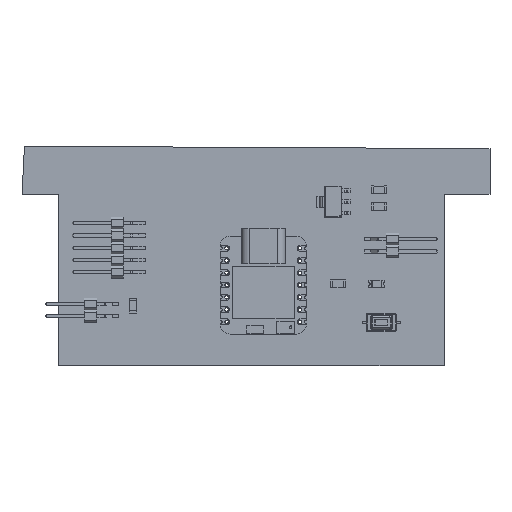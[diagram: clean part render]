
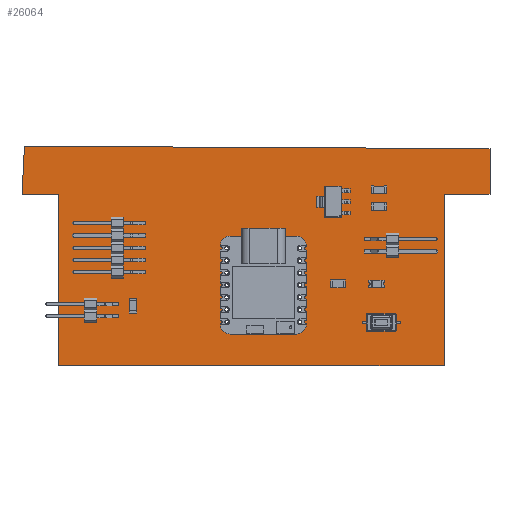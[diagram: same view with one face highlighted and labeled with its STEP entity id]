
A CAD part, top view. The second image highlights one B-rep face of the part: STEP entity #26064.
In plain terms, the highlighted planar face has unit normal (0, 0, 1).
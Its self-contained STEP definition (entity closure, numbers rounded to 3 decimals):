
#25766 = VERTEX_POINT('',#25767);
#25767 = CARTESIAN_POINT('',(189.5,-70.5,1.51));
#25773 = EDGE_CURVE('',#25766,#25774,#25776,.T.);
#25774 = VERTEX_POINT('',#25775);
#25775 = CARTESIAN_POINT('',(189.5,-80.,1.51));
#25776 = LINE('',#25777,#25778);
#25777 = CARTESIAN_POINT('',(189.5,-70.5,1.51));
#25778 = VECTOR('',#25779,1.);
#25779 = DIRECTION('',(0.,-1.,0.));
#25806 = VERTEX_POINT('',#25807);
#25807 = CARTESIAN_POINT('',(93.,-70.,1.51));
#25813 = EDGE_CURVE('',#25806,#25766,#25814,.T.);
#25814 = LINE('',#25815,#25816);
#25815 = CARTESIAN_POINT('',(93.,-70.,1.51));
#25816 = VECTOR('',#25817,1.);
#25817 = DIRECTION('',(1.,-0.005,0.));
#25835 = EDGE_CURVE('',#25774,#25836,#25838,.T.);
#25836 = VERTEX_POINT('',#25837);
#25837 = CARTESIAN_POINT('',(180.,-80.,1.51));
#25838 = LINE('',#25839,#25840);
#25839 = CARTESIAN_POINT('',(189.5,-80.,1.51));
#25840 = VECTOR('',#25841,1.);
#25841 = DIRECTION('',(-1.,0.,0.));
#26064 = ADVANCED_FACE('',(#26065,#26108,#26119,#26130,#26141,#26152,
    #26163,#26174,#26185,#26196,#26207,#26218,#26229,#26240,#26251),
  #26262,.T.);
#26065 = FACE_BOUND('',#26066,.T.);
#26066 = EDGE_LOOP('',(#26067,#26068,#26069,#26077,#26085,#26093,#26101,
    #26107));
#26067 = ORIENTED_EDGE('',*,*,#25773,.F.);
#26068 = ORIENTED_EDGE('',*,*,#25813,.F.);
#26069 = ORIENTED_EDGE('',*,*,#26070,.F.);
#26070 = EDGE_CURVE('',#26071,#25806,#26073,.T.);
#26071 = VERTEX_POINT('',#26072);
#26072 = CARTESIAN_POINT('',(92.5,-80.,1.51));
#26073 = LINE('',#26074,#26075);
#26074 = CARTESIAN_POINT('',(92.5,-80.,1.51));
#26075 = VECTOR('',#26076,1.);
#26076 = DIRECTION('',(0.05,0.999,0.));
#26077 = ORIENTED_EDGE('',*,*,#26078,.F.);
#26078 = EDGE_CURVE('',#26079,#26071,#26081,.T.);
#26079 = VERTEX_POINT('',#26080);
#26080 = CARTESIAN_POINT('',(100.,-80.,1.51));
#26081 = LINE('',#26082,#26083);
#26082 = CARTESIAN_POINT('',(100.,-80.,1.51));
#26083 = VECTOR('',#26084,1.);
#26084 = DIRECTION('',(-1.,0.,0.));
#26085 = ORIENTED_EDGE('',*,*,#26086,.F.);
#26086 = EDGE_CURVE('',#26087,#26079,#26089,.T.);
#26087 = VERTEX_POINT('',#26088);
#26088 = CARTESIAN_POINT('',(100.,-115.5,1.51));
#26089 = LINE('',#26090,#26091);
#26090 = CARTESIAN_POINT('',(100.,-115.5,1.51));
#26091 = VECTOR('',#26092,1.);
#26092 = DIRECTION('',(0.,1.,0.));
#26093 = ORIENTED_EDGE('',*,*,#26094,.F.);
#26094 = EDGE_CURVE('',#26095,#26087,#26097,.T.);
#26095 = VERTEX_POINT('',#26096);
#26096 = CARTESIAN_POINT('',(180.,-115.5,1.51));
#26097 = LINE('',#26098,#26099);
#26098 = CARTESIAN_POINT('',(180.,-115.5,1.51));
#26099 = VECTOR('',#26100,1.);
#26100 = DIRECTION('',(-1.,0.,0.));
#26101 = ORIENTED_EDGE('',*,*,#26102,.F.);
#26102 = EDGE_CURVE('',#25836,#26095,#26103,.T.);
#26103 = LINE('',#26104,#26105);
#26104 = CARTESIAN_POINT('',(180.,-80.,1.51));
#26105 = VECTOR('',#26106,1.);
#26106 = DIRECTION('',(0.,-1.,0.));
#26107 = ORIENTED_EDGE('',*,*,#25835,.F.);
#26108 = FACE_BOUND('',#26109,.T.);
#26109 = EDGE_LOOP('',(#26110));
#26110 = ORIENTED_EDGE('',*,*,#26111,.T.);
#26111 = EDGE_CURVE('',#26112,#26112,#26114,.T.);
#26112 = VERTEX_POINT('',#26113);
#26113 = CARTESIAN_POINT('',(134.9,-106.8,1.51));
#26114 = CIRCLE('',#26115,0.4);
#26115 = AXIS2_PLACEMENT_3D('',#26116,#26117,#26118);
#26116 = CARTESIAN_POINT('',(134.9,-106.4,1.51));
#26117 = DIRECTION('',(-0.,0.,-1.));
#26118 = DIRECTION('',(-0.,-1.,0.));
#26119 = FACE_BOUND('',#26120,.T.);
#26120 = EDGE_LOOP('',(#26121));
#26121 = ORIENTED_EDGE('',*,*,#26122,.T.);
#26122 = EDGE_CURVE('',#26123,#26123,#26125,.T.);
#26123 = VERTEX_POINT('',#26124);
#26124 = CARTESIAN_POINT('',(134.9,-104.26,1.51));
#26125 = CIRCLE('',#26126,0.4);
#26126 = AXIS2_PLACEMENT_3D('',#26127,#26128,#26129);
#26127 = CARTESIAN_POINT('',(134.9,-103.86,1.51));
#26128 = DIRECTION('',(-0.,0.,-1.));
#26129 = DIRECTION('',(-0.,-1.,0.));
#26130 = FACE_BOUND('',#26131,.T.);
#26131 = EDGE_LOOP('',(#26132));
#26132 = ORIENTED_EDGE('',*,*,#26133,.T.);
#26133 = EDGE_CURVE('',#26134,#26134,#26136,.T.);
#26134 = VERTEX_POINT('',#26135);
#26135 = CARTESIAN_POINT('',(134.9,-101.72,1.51));
#26136 = CIRCLE('',#26137,0.4);
#26137 = AXIS2_PLACEMENT_3D('',#26138,#26139,#26140);
#26138 = CARTESIAN_POINT('',(134.9,-101.32,1.51));
#26139 = DIRECTION('',(-0.,0.,-1.));
#26140 = DIRECTION('',(-0.,-1.,0.));
#26141 = FACE_BOUND('',#26142,.T.);
#26142 = EDGE_LOOP('',(#26143));
#26143 = ORIENTED_EDGE('',*,*,#26144,.T.);
#26144 = EDGE_CURVE('',#26145,#26145,#26147,.T.);
#26145 = VERTEX_POINT('',#26146);
#26146 = CARTESIAN_POINT('',(150.135,-106.8,1.51));
#26147 = CIRCLE('',#26148,0.4);
#26148 = AXIS2_PLACEMENT_3D('',#26149,#26150,#26151);
#26149 = CARTESIAN_POINT('',(150.135,-106.4,1.51));
#26150 = DIRECTION('',(-0.,0.,-1.));
#26151 = DIRECTION('',(-0.,-1.,0.));
#26152 = FACE_BOUND('',#26153,.T.);
#26153 = EDGE_LOOP('',(#26154));
#26154 = ORIENTED_EDGE('',*,*,#26155,.T.);
#26155 = EDGE_CURVE('',#26156,#26156,#26158,.T.);
#26156 = VERTEX_POINT('',#26157);
#26157 = CARTESIAN_POINT('',(150.135,-104.26,1.51));
#26158 = CIRCLE('',#26159,0.4);
#26159 = AXIS2_PLACEMENT_3D('',#26160,#26161,#26162);
#26160 = CARTESIAN_POINT('',(150.135,-103.86,1.51));
#26161 = DIRECTION('',(-0.,0.,-1.));
#26162 = DIRECTION('',(-0.,-1.,0.));
#26163 = FACE_BOUND('',#26164,.T.);
#26164 = EDGE_LOOP('',(#26165));
#26165 = ORIENTED_EDGE('',*,*,#26166,.T.);
#26166 = EDGE_CURVE('',#26167,#26167,#26169,.T.);
#26167 = VERTEX_POINT('',#26168);
#26168 = CARTESIAN_POINT('',(150.135,-101.72,1.51));
#26169 = CIRCLE('',#26170,0.4);
#26170 = AXIS2_PLACEMENT_3D('',#26171,#26172,#26173);
#26171 = CARTESIAN_POINT('',(150.135,-101.32,1.51));
#26172 = DIRECTION('',(-0.,0.,-1.));
#26173 = DIRECTION('',(-0.,-1.,0.));
#26174 = FACE_BOUND('',#26175,.T.);
#26175 = EDGE_LOOP('',(#26176));
#26176 = ORIENTED_EDGE('',*,*,#26177,.T.);
#26177 = EDGE_CURVE('',#26178,#26178,#26180,.T.);
#26178 = VERTEX_POINT('',#26179);
#26179 = CARTESIAN_POINT('',(150.135,-99.18,1.51));
#26180 = CIRCLE('',#26181,0.4);
#26181 = AXIS2_PLACEMENT_3D('',#26182,#26183,#26184);
#26182 = CARTESIAN_POINT('',(150.135,-98.78,1.51));
#26183 = DIRECTION('',(-0.,0.,-1.));
#26184 = DIRECTION('',(-0.,-1.,0.));
#26185 = FACE_BOUND('',#26186,.T.);
#26186 = EDGE_LOOP('',(#26187));
#26187 = ORIENTED_EDGE('',*,*,#26188,.T.);
#26188 = EDGE_CURVE('',#26189,#26189,#26191,.T.);
#26189 = VERTEX_POINT('',#26190);
#26190 = CARTESIAN_POINT('',(134.9,-99.18,1.51));
#26191 = CIRCLE('',#26192,0.4);
#26192 = AXIS2_PLACEMENT_3D('',#26193,#26194,#26195);
#26193 = CARTESIAN_POINT('',(134.9,-98.78,1.51));
#26194 = DIRECTION('',(-0.,0.,-1.));
#26195 = DIRECTION('',(-0.,-1.,0.));
#26196 = FACE_BOUND('',#26197,.T.);
#26197 = EDGE_LOOP('',(#26198));
#26198 = ORIENTED_EDGE('',*,*,#26199,.T.);
#26199 = EDGE_CURVE('',#26200,#26200,#26202,.T.);
#26200 = VERTEX_POINT('',#26201);
#26201 = CARTESIAN_POINT('',(134.9,-96.64,1.51));
#26202 = CIRCLE('',#26203,0.4);
#26203 = AXIS2_PLACEMENT_3D('',#26204,#26205,#26206);
#26204 = CARTESIAN_POINT('',(134.9,-96.24,1.51));
#26205 = DIRECTION('',(-0.,0.,-1.));
#26206 = DIRECTION('',(-0.,-1.,0.));
#26207 = FACE_BOUND('',#26208,.T.);
#26208 = EDGE_LOOP('',(#26209));
#26209 = ORIENTED_EDGE('',*,*,#26210,.T.);
#26210 = EDGE_CURVE('',#26211,#26211,#26213,.T.);
#26211 = VERTEX_POINT('',#26212);
#26212 = CARTESIAN_POINT('',(134.9,-94.1,1.51));
#26213 = CIRCLE('',#26214,0.4);
#26214 = AXIS2_PLACEMENT_3D('',#26215,#26216,#26217);
#26215 = CARTESIAN_POINT('',(134.9,-93.7,1.51));
#26216 = DIRECTION('',(-0.,0.,-1.));
#26217 = DIRECTION('',(-0.,-1.,0.));
#26218 = FACE_BOUND('',#26219,.T.);
#26219 = EDGE_LOOP('',(#26220));
#26220 = ORIENTED_EDGE('',*,*,#26221,.T.);
#26221 = EDGE_CURVE('',#26222,#26222,#26224,.T.);
#26222 = VERTEX_POINT('',#26223);
#26223 = CARTESIAN_POINT('',(134.9,-91.56,1.51));
#26224 = CIRCLE('',#26225,0.4);
#26225 = AXIS2_PLACEMENT_3D('',#26226,#26227,#26228);
#26226 = CARTESIAN_POINT('',(134.9,-91.16,1.51));
#26227 = DIRECTION('',(-0.,0.,-1.));
#26228 = DIRECTION('',(-0.,-1.,0.));
#26229 = FACE_BOUND('',#26230,.T.);
#26230 = EDGE_LOOP('',(#26231));
#26231 = ORIENTED_EDGE('',*,*,#26232,.T.);
#26232 = EDGE_CURVE('',#26233,#26233,#26235,.T.);
#26233 = VERTEX_POINT('',#26234);
#26234 = CARTESIAN_POINT('',(150.135,-96.64,1.51));
#26235 = CIRCLE('',#26236,0.4);
#26236 = AXIS2_PLACEMENT_3D('',#26237,#26238,#26239);
#26237 = CARTESIAN_POINT('',(150.135,-96.24,1.51));
#26238 = DIRECTION('',(-0.,0.,-1.));
#26239 = DIRECTION('',(-0.,-1.,0.));
#26240 = FACE_BOUND('',#26241,.T.);
#26241 = EDGE_LOOP('',(#26242));
#26242 = ORIENTED_EDGE('',*,*,#26243,.T.);
#26243 = EDGE_CURVE('',#26244,#26244,#26246,.T.);
#26244 = VERTEX_POINT('',#26245);
#26245 = CARTESIAN_POINT('',(150.135,-94.1,1.51));
#26246 = CIRCLE('',#26247,0.4);
#26247 = AXIS2_PLACEMENT_3D('',#26248,#26249,#26250);
#26248 = CARTESIAN_POINT('',(150.135,-93.7,1.51));
#26249 = DIRECTION('',(-0.,0.,-1.));
#26250 = DIRECTION('',(-0.,-1.,0.));
#26251 = FACE_BOUND('',#26252,.T.);
#26252 = EDGE_LOOP('',(#26253));
#26253 = ORIENTED_EDGE('',*,*,#26254,.T.);
#26254 = EDGE_CURVE('',#26255,#26255,#26257,.T.);
#26255 = VERTEX_POINT('',#26256);
#26256 = CARTESIAN_POINT('',(150.135,-91.56,1.51));
#26257 = CIRCLE('',#26258,0.4);
#26258 = AXIS2_PLACEMENT_3D('',#26259,#26260,#26261);
#26259 = CARTESIAN_POINT('',(150.135,-91.16,1.51));
#26260 = DIRECTION('',(-0.,0.,-1.));
#26261 = DIRECTION('',(-0.,-1.,0.));
#26262 = PLANE('',#26263);
#26263 = AXIS2_PLACEMENT_3D('',#26264,#26265,#26266);
#26264 = CARTESIAN_POINT('',(0.,0.,1.51));
#26265 = DIRECTION('',(0.,0.,1.));
#26266 = DIRECTION('',(1.,0.,-0.));
